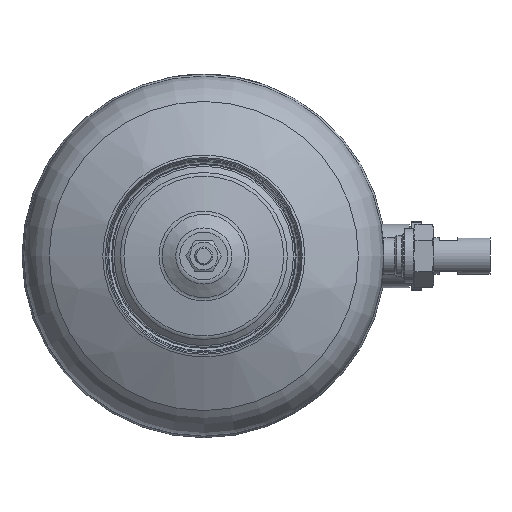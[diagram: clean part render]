
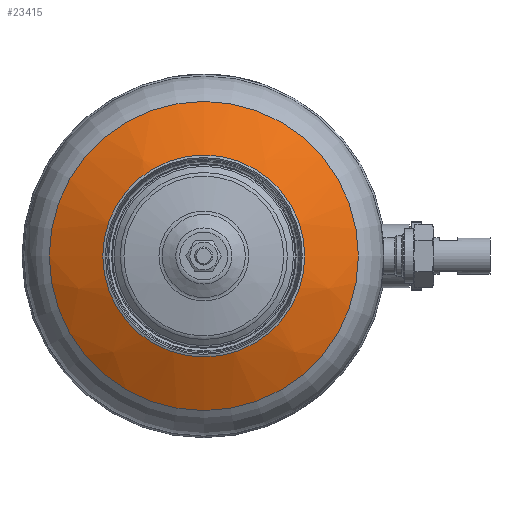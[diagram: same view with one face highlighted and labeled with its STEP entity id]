
A CAD part, front view. The second image highlights one B-rep face of the part: STEP entity #23415.
In plain terms, the highlighted spherical face has radius 159 mm.
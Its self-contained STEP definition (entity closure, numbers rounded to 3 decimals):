
#138=SPHERICAL_SURFACE('',#25250,159.);
#675=FACE_BOUND('',#4993,.T.);
#2179=CIRCLE('',#25207,50.335);
#2197=CIRCLE('',#25249,85.047);
#3515=FACE_OUTER_BOUND('',#4992,.T.);
#4992=EDGE_LOOP('',(#20902));
#4993=EDGE_LOOP('',(#20903));
#10877=VERTEX_POINT('',#48846);
#10899=VERTEX_POINT('',#48918);
#14237=EDGE_CURVE('',#10877,#10877,#2179,.T.);
#14263=EDGE_CURVE('',#10899,#10899,#2197,.T.);
#20902=ORIENTED_EDGE('',*,*,#14263,.T.);
#20903=ORIENTED_EDGE('',*,*,#14237,.T.);
#23415=ADVANCED_FACE('',(#3515,#675),#138,.T.);
#25207=AXIS2_PLACEMENT_3D('',#48847,#30344,#30345);
#25249=AXIS2_PLACEMENT_3D('',#48919,#30436,#30437);
#25250=AXIS2_PLACEMENT_3D('',#48920,#30438,#30439);
#30344=DIRECTION('center_axis',(0.,1.,0.));
#30345=DIRECTION('ref_axis',(0.,0.,-1.));
#30436=DIRECTION('center_axis',(0.,-1.,0.));
#30437=DIRECTION('ref_axis',(-1.,0.,0.));
#30438=DIRECTION('center_axis',(0.,0.,-1.));
#30439=DIRECTION('ref_axis',(1.,0.,0.));
#48846=CARTESIAN_POINT('',(0.,-159.5,50.335));
#48847=CARTESIAN_POINT('Origin',(0.,-159.5,0.));
#48918=CARTESIAN_POINT('',(-85.047,-143.021,0.));
#48919=CARTESIAN_POINT('Origin',(0.,-143.021,
0.));
#48920=CARTESIAN_POINT('Origin',(0.,-8.678,
0.));
